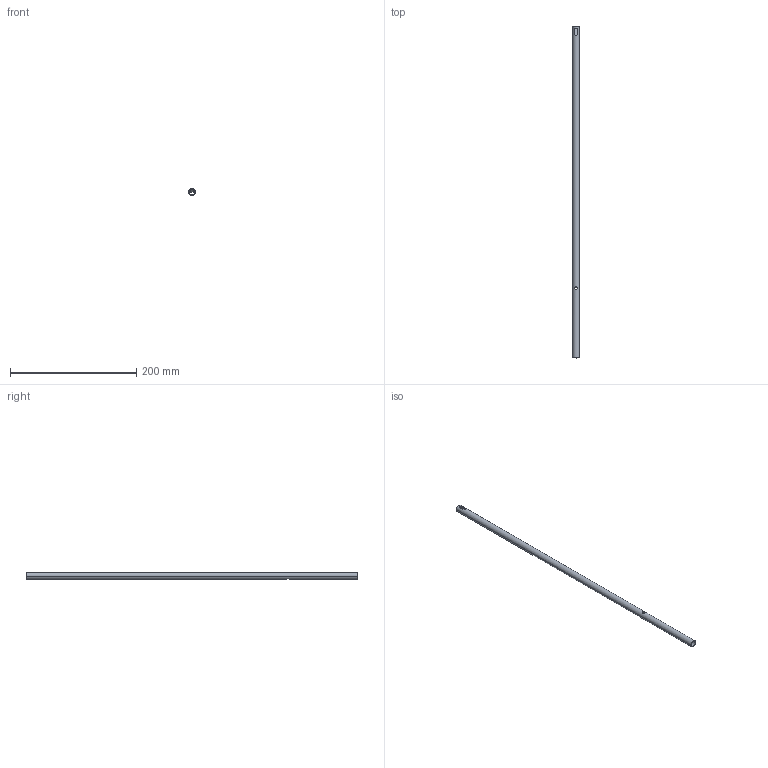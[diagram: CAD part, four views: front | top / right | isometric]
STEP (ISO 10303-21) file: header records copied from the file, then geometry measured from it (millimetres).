
FILE_DESCRIPTION (( 'STEP AP214' ), '1' );
FILE_NAME ('Relingsrohr-Frontstütze_P710701300_550.step', '2010-09-07T12:59:31', ( 'grass' ), ( '' ), 'SwSTEP 2.0', 'SolidWorks 2010', '' );
FILE_SCHEMA (( 'AUTOMOTIVE_DESIGN' ));
Length unit declared in the file: millimetre
Products named in the file (1): Relingsrohr-Frontstütze_P710701300_550
Bounding box: 11 x 526 x 11 mm (x, y, z)
Volume: 16462.1 mm3; surface area: 33073.6 mm2
Topology: 1 solids, 1 shells, 18 faces, 46 edges, 30 vertices
Faces by surface type: plane 10, cylinder 8
Entity records: 850 total; most frequent: CARTESIAN_POINT 351, ORIENTED_EDGE 92, DIRECTION 84, EDGE_CURVE 46, VERTEX_POINT 30, AXIS2_PLACEMENT_3D 29, VECTOR 26, LINE 26
